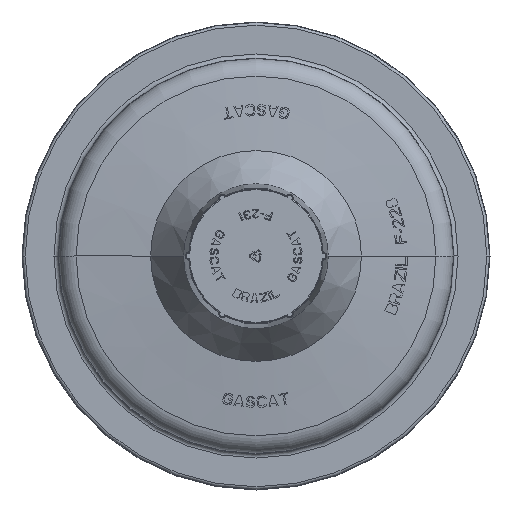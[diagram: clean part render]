
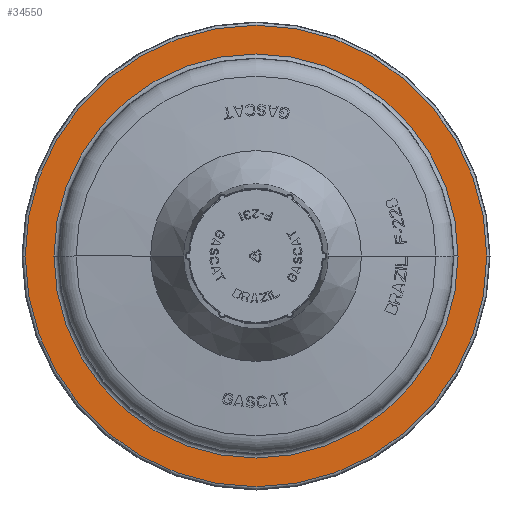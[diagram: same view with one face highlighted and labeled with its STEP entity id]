
A CAD part, left-side view. The second image highlights one B-rep face of the part: STEP entity #34550.
In plain terms, the highlighted planar face has unit normal (-1, 0, 0).
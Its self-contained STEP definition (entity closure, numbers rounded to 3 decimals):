
#9531=CARTESIAN_POINT('',(-5.2,0.,0.));
#9532=DIRECTION('',(-1.,0.,0.));
#9533=DIRECTION('',(0.,1.,0.));
#9534=AXIS2_PLACEMENT_3D('',#9531,#9532,#9533);
#9536=CARTESIAN_POINT('',(-5.2,0.,0.));
#9537=DIRECTION('',(-1.,0.,0.));
#9538=DIRECTION('',(0.,-1.,0.));
#9539=AXIS2_PLACEMENT_3D('',#9536,#9537,#9538);
#9541=CARTESIAN_POINT('',(-5.2,0.,0.));
#9542=DIRECTION('',(1.,0.,0.));
#9543=DIRECTION('',(0.,1.,0.));
#9544=AXIS2_PLACEMENT_3D('',#9541,#9542,#9543);
#9546=CARTESIAN_POINT('',(-5.2,0.,0.));
#9547=DIRECTION('',(1.,0.,0.));
#9548=DIRECTION('',(0.,-1.,0.));
#9549=AXIS2_PLACEMENT_3D('',#9546,#9547,#9548);
#24270=CARTESIAN_POINT('',(-5.2,82.342,0.));
#24271=CARTESIAN_POINT('',(-5.2,-82.342,0.));
#24272=VERTEX_POINT('',#24270);
#24273=VERTEX_POINT('',#24271);
#24282=CARTESIAN_POINT('',(-5.2,72.078,0.));
#24283=CARTESIAN_POINT('',(-5.2,-72.078,0.));
#24284=VERTEX_POINT('',#24282);
#24285=VERTEX_POINT('',#24283);
#34535=CARTESIAN_POINT('',(-5.2,0.,0.));
#34536=DIRECTION('',(1.,0.,0.));
#34537=DIRECTION('',(0.,-1.,0.));
#34538=AXIS2_PLACEMENT_3D('',#34535,#34536,#34537);
#34539=PLANE('',#34538);
#34541=ORIENTED_EDGE('',*,*,#34540,.F.);
#34543=ORIENTED_EDGE('',*,*,#34542,.F.);
#34544=EDGE_LOOP('',(#34541,#34543));
#34545=FACE_OUTER_BOUND('',#34544,.F.);
#34546=ORIENTED_EDGE('',*,*,#34502,.F.);
#34547=ORIENTED_EDGE('',*,*,#34517,.F.);
#34548=EDGE_LOOP('',(#34546,#34547));
#34549=FACE_BOUND('',#34548,.F.);
#34550=ADVANCED_FACE('',(#34545,#34549),#34539,.F.);
#9535=CIRCLE('',#9534,82.342);
#9540=CIRCLE('',#9539,82.342);
#9545=CIRCLE('',#9544,72.078);
#9550=CIRCLE('',#9549,72.078);
#34502=EDGE_CURVE('',#24284,#24285,#9545,.T.);
#34517=EDGE_CURVE('',#24285,#24284,#9550,.T.);
#34540=EDGE_CURVE('',#24272,#24273,#9535,.T.);
#34542=EDGE_CURVE('',#24273,#24272,#9540,.T.);
